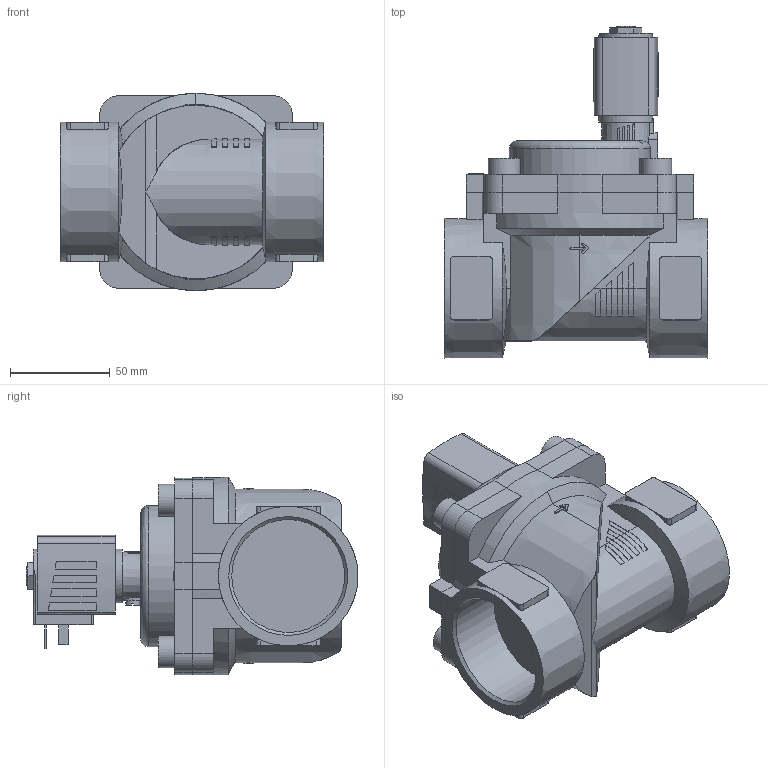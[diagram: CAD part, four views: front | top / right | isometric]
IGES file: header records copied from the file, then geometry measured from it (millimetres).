
Start section: Data from Parasolid IGES Translator 26.0.171, Copyright(c) 2006 Siemens PLM Software. All Rights Reserved.
Global section: file name: 6281-327324-2_2-Way_Solenoid_Valve__Servo-assisted__General_Purpose.igs; native system: By Siemens PLM Incorporated; preprocessor: XPlus GENERIC/IGES 26.0.171; author: Noname; organization: Noname; date: 20240904.140333; units: millimetre
Bounding box: 132 x 166.5 x 99 mm (x, y, z)
Surface area: 102610.1 mm2 (no closed solid volume)
Topology: 0 solids, 0 shells, 370 faces, 1980 edges, 1974 vertices
Faces by surface type: extrusion 242, revolution 128
